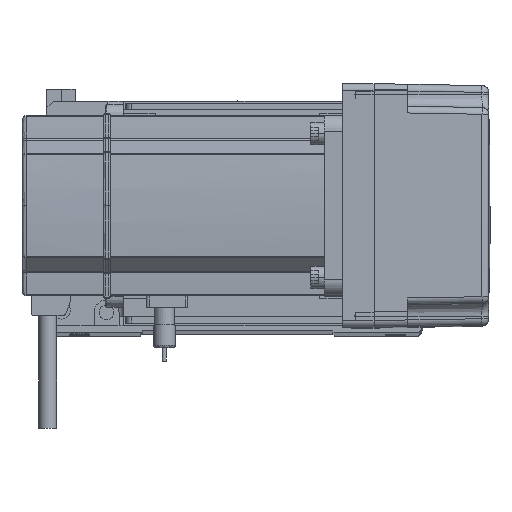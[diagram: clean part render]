
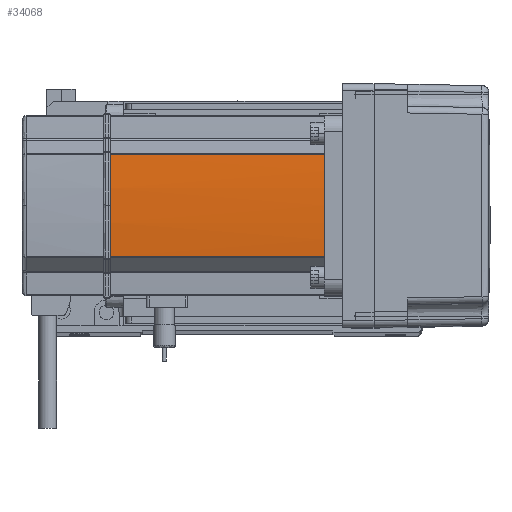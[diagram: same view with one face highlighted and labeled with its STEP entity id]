
A CAD part, top view. The second image highlights one B-rep face of the part: STEP entity #34068.
In plain terms, the highlighted cylindrical face has radius 270 mm (diameter 540 mm), a partial arc.
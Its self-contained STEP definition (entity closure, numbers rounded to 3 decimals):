
#260 = ORIENTED_EDGE ( 'NONE', *, *, #31255, .F. ) ;
#786 = LINE ( 'NONE', #15601, #23889 ) ;
#3862 = DIRECTION ( 'NONE',  ( 0., 0., 1. ) ) ;
#6916 = CIRCLE ( 'NONE', #17055, 270. ) ;
#7162 = EDGE_CURVE ( 'NONE', #20969, #18784, #786, .T. ) ;
#7956 = CARTESIAN_POINT ( 'NONE',  ( -40., 0., 134. ) ) ;
#8420 = EDGE_CURVE ( 'NONE', #45108, #56695, #32975, .T. ) ;
#8917 = CARTESIAN_POINT ( 'NONE',  ( -39.042, 22.724, 39. ) ) ;
#10858 = DIRECTION ( 'NONE',  ( 0., 0., -1. ) ) ;
#11183 = EDGE_LOOP ( 'NONE', ( #22428, #33844, #30214, #260, #24610 ) ) ;
#14177 = AXIS2_PLACEMENT_3D ( 'NONE', #48856, #3862, #31252 ) ;
#15601 = CARTESIAN_POINT ( 'NONE',  ( -39.042, 22.724, 0. ) ) ;
#17055 = AXIS2_PLACEMENT_3D ( 'NONE', #52504, #39738, #39160 ) ;
#18784 = VERTEX_POINT ( 'NONE', #8917 ) ;
#20505 = CIRCLE ( 'NONE', #46849, 270. ) ;
#20969 = VERTEX_POINT ( 'NONE', #51085 ) ;
#21069 = VECTOR ( 'NONE', #53912, 1000. ) ;
#22428 = ORIENTED_EDGE ( 'NONE', *, *, #50901, .T. ) ;
#22692 = DIRECTION ( 'NONE',  ( 0., 0., -1. ) ) ;
#23889 = VECTOR ( 'NONE', #10858, 1000. ) ;
#24610 = ORIENTED_EDGE ( 'NONE', *, *, #8420, .T. ) ;
#24882 = CYLINDRICAL_SURFACE ( 'NONE', #14177, 270. ) ;
#26487 = DIRECTION ( 'NONE',  ( 1., 0., 0. ) ) ;
#27016 = CARTESIAN_POINT ( 'NONE',  ( -39.042, -22.724, 134. ) ) ;
#27220 = DIRECTION ( 'NONE',  ( 1., 0., 0. ) ) ;
#28236 = CARTESIAN_POINT ( 'NONE',  ( -39.042, -22.724, 39. ) ) ;
#28517 = AXIS2_PLACEMENT_3D ( 'NONE', #31926, #22692, #27220 ) ;
#28710 = CIRCLE ( 'NONE', #28517, 270. ) ;
#30214 = ORIENTED_EDGE ( 'NONE', *, *, #7162, .T. ) ;
#30714 = VERTEX_POINT ( 'NONE', #7956 ) ;
#31252 = DIRECTION ( 'NONE',  ( 1., 0., 0. ) ) ;
#31255 = EDGE_CURVE ( 'NONE', #45108, #18784, #6916, .T. ) ;
#31926 = CARTESIAN_POINT ( 'NONE',  ( 230., 0., 134. ) ) ;
#32975 = LINE ( 'NONE', #49381, #21069 ) ;
#33844 = ORIENTED_EDGE ( 'NONE', *, *, #36330, .T. ) ;
#34068 = ADVANCED_FACE ( 'NONE', ( #44497 ), #24882, .T. ) ;
#36330 = EDGE_CURVE ( 'NONE', #30714, #20969, #20505, .T. ) ;
#39160 = DIRECTION ( 'NONE',  ( 1., 0., 0. ) ) ;
#39738 = DIRECTION ( 'NONE',  ( 0., 0., -1. ) ) ;
#44497 = FACE_OUTER_BOUND ( 'NONE', #11183, .T. ) ;
#45108 = VERTEX_POINT ( 'NONE', #28236 ) ;
#46849 = AXIS2_PLACEMENT_3D ( 'NONE', #48409, #53107, #26487 ) ;
#48409 = CARTESIAN_POINT ( 'NONE',  ( 230., 0., 134. ) ) ;
#48856 = CARTESIAN_POINT ( 'NONE',  ( 230., 0., 0. ) ) ;
#49381 = CARTESIAN_POINT ( 'NONE',  ( -39.042, -22.724, 0. ) ) ;
#50901 = EDGE_CURVE ( 'NONE', #56695, #30714, #28710, .T. ) ;
#51085 = CARTESIAN_POINT ( 'NONE',  ( -39.042, 22.724, 134. ) ) ;
#52504 = CARTESIAN_POINT ( 'NONE',  ( 230., 0., 39. ) ) ;
#53107 = DIRECTION ( 'NONE',  ( 0., 0., -1. ) ) ;
#53912 = DIRECTION ( 'NONE',  ( 0., 0., 1. ) ) ;
#56695 = VERTEX_POINT ( 'NONE', #27016 ) ;
